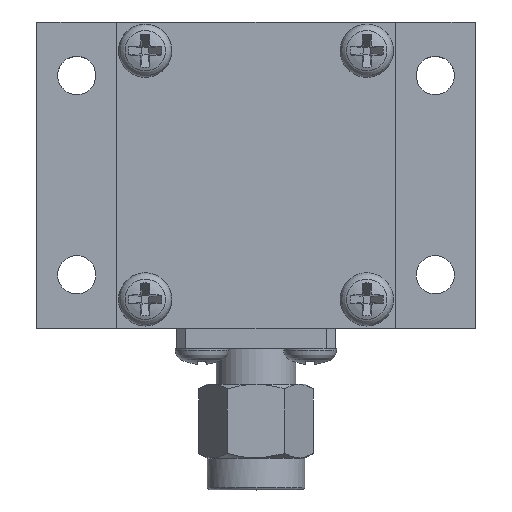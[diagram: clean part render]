
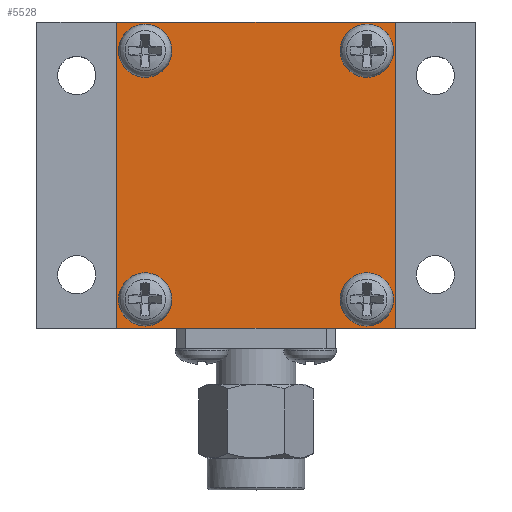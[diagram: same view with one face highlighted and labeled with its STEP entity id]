
A CAD part, top view. The second image highlights one B-rep face of the part: STEP entity #5528.
In plain terms, the highlighted planar face has unit normal (0, 0, 1).
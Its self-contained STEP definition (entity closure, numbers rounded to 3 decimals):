
#168=CIRCLE('',#5615,2.121);
#183=CIRCLE('',#5662,2.121);
#198=CIRCLE('',#5709,2.121);
#213=CIRCLE('',#5756,2.121);
#1361=ORIENTED_EDGE('',*,*,#1603,.F.);
#1362=ORIENTED_EDGE('',*,*,#1654,.F.);
#1363=ORIENTED_EDGE('',*,*,#1705,.F.);
#1364=ORIENTED_EDGE('',*,*,#1756,.F.);
#1365=ORIENTED_EDGE('',*,*,#2020,.F.);
#1366=ORIENTED_EDGE('',*,*,#2015,.F.);
#1367=ORIENTED_EDGE('',*,*,#2034,.F.);
#1368=ORIENTED_EDGE('',*,*,#2035,.F.);
#1603=EDGE_CURVE('',#2148,#2148,#168,.T.);
#1654=EDGE_CURVE('',#2183,#2183,#183,.T.);
#1705=EDGE_CURVE('',#2218,#2218,#198,.T.);
#1756=EDGE_CURVE('',#2253,#2253,#213,.T.);
#2015=EDGE_CURVE('',#2441,#2442,#2673,.T.);
#2020=EDGE_CURVE('',#2442,#2446,#2677,.T.);
#2034=EDGE_CURVE('',#2453,#2441,#2691,.T.);
#2035=EDGE_CURVE('',#2446,#2453,#2692,.T.);
#2148=VERTEX_POINT('',#7447);
#2183=VERTEX_POINT('',#7565);
#2218=VERTEX_POINT('',#7683);
#2253=VERTEX_POINT('',#7801);
#2441=VERTEX_POINT('',#8510);
#2442=VERTEX_POINT('',#8512);
#2446=VERTEX_POINT('',#8523);
#2453=VERTEX_POINT('',#8549);
#2673=LINE('',#8511,#2907);
#2677=LINE('',#8522,#2911);
#2691=LINE('',#8550,#2925);
#2692=LINE('',#8552,#2926);
#2907=VECTOR('',#7115,1000.);
#2911=VECTOR('',#7125,1000.);
#2925=VECTOR('',#7151,1000.);
#2926=VECTOR('',#7154,1000.);
#3221=EDGE_LOOP('',(#1361));
#3222=EDGE_LOOP('',(#1362));
#3223=EDGE_LOOP('',(#1363));
#3224=EDGE_LOOP('',(#1364));
#3225=EDGE_LOOP('',(#1365,#1366,#1367,#1368));
#3517=FACE_BOUND('',#3221,.T.);
#3518=FACE_BOUND('',#3222,.T.);
#3519=FACE_BOUND('',#3223,.T.);
#3520=FACE_BOUND('',#3224,.T.);
#3521=FACE_BOUND('',#3225,.T.);
#3683=PLANE('',#6011);
#5528=ADVANCED_FACE('',(#3517,#3518,#3519,#3520,#3521),#3683,.F.);
#5615=AXIS2_PLACEMENT_3D('',#7446,#6191,#6192);
#5662=AXIS2_PLACEMENT_3D('',#7564,#6305,#6306);
#5709=AXIS2_PLACEMENT_3D('',#7682,#6419,#6420);
#5756=AXIS2_PLACEMENT_3D('',#7800,#6533,#6534);
#6011=AXIS2_PLACEMENT_3D('',#8551,#7152,#7153);
#6191=DIRECTION('',(0.,0.,1.));
#6192=DIRECTION('',(1.,0.,0.));
#6305=DIRECTION('',(0.,0.,1.));
#6306=DIRECTION('',(1.,0.,0.));
#6419=DIRECTION('',(0.,0.,1.));
#6420=DIRECTION('',(1.,0.,0.));
#6533=DIRECTION('',(0.,0.,1.));
#6534=DIRECTION('',(1.,0.,0.));
#7115=DIRECTION('',(1.,0.,0.));
#7125=DIRECTION('',(0.,-1.,0.));
#7151=DIRECTION('',(0.,1.,0.));
#7152=DIRECTION('',(0.,0.,-1.));
#7153=DIRECTION('',(0.,-1.,0.));
#7154=DIRECTION('',(-1.,0.,0.));
#7446=CARTESIAN_POINT('',(-8.826,-9.906,13.894));
#7447=CARTESIAN_POINT('',(-6.706,-9.906,13.894));
#7564=CARTESIAN_POINT('',(-8.827,9.906,13.894));
#7565=CARTESIAN_POINT('',(-6.706,9.906,13.894));
#7682=CARTESIAN_POINT('',(8.827,-9.906,13.894));
#7683=CARTESIAN_POINT('',(10.947,-9.906,13.894));
#7800=CARTESIAN_POINT('',(8.827,9.906,13.894));
#7801=CARTESIAN_POINT('',(10.947,9.906,13.894));
#8510=CARTESIAN_POINT('',(-11.113,12.192,13.894));
#8511=CARTESIAN_POINT('',(-11.113,12.192,13.894));
#8512=CARTESIAN_POINT('',(11.113,12.192,13.894));
#8522=CARTESIAN_POINT('',(11.113,12.192,13.894));
#8523=CARTESIAN_POINT('',(11.113,-12.192,13.894));
#8549=CARTESIAN_POINT('',(-11.113,-12.192,13.894));
#8550=CARTESIAN_POINT('',(-11.113,-12.192,13.894));
#8551=CARTESIAN_POINT('',(11.113,-12.192,13.894));
#8552=CARTESIAN_POINT('',(11.113,-12.192,13.894));
